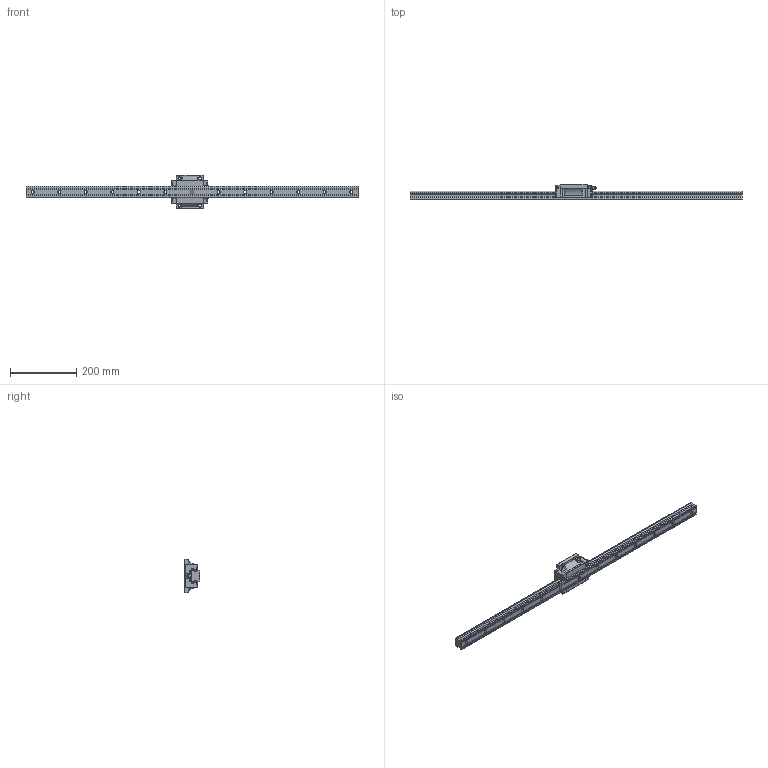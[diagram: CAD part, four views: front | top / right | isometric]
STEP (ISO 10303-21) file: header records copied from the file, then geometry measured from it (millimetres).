
FILE_DESCRIPTION (( 'STEP AP214' ), '1' );
FILE_NAME ('EGH35F.STEP', '2021-07-06T05:48:20', ( '' ), ( '' ), 'SwSTEP 2.0', 'SolidWorks 2019', '' );
FILE_SCHEMA (( 'AUTOMOTIVE_DESIGN' ));
Length unit declared in the file: millimetre
Products named in the file (4): EGH35F; EG35レール; EGH35Fキャリッジ; M6グリースニップル
Assembly tree (3 placements, depth 2):
  EGH35F
    EG35レール
    EGH35Fキャリッジ
    M6グリースニップル
Bounding box: 1000 x 48 x 100 mm (x, y, z)
Volume: 1037218.5 mm3; surface area: 189973 mm2
Topology: 7 solids, 7 shells, 569 faces, 1579 edges, 1043 vertices
Faces by surface type: plane 365, cylinder 180, cone 20, torus 3, sphere 1
Full cylindrical faces by diameter (mm): 6 x1, 7.75 x1, 8 x1, 9 x13, 14 x13
Entity records: 23878 total; most frequent: CARTESIAN_POINT 3398, ORIENTED_EDGE 3080, DIRECTION 3040, EDGE_CURVE 1540, VECTOR 1132, LINE 1132, VERTEX_POINT 1039, AXIS2_PLACEMENT_3D 954
